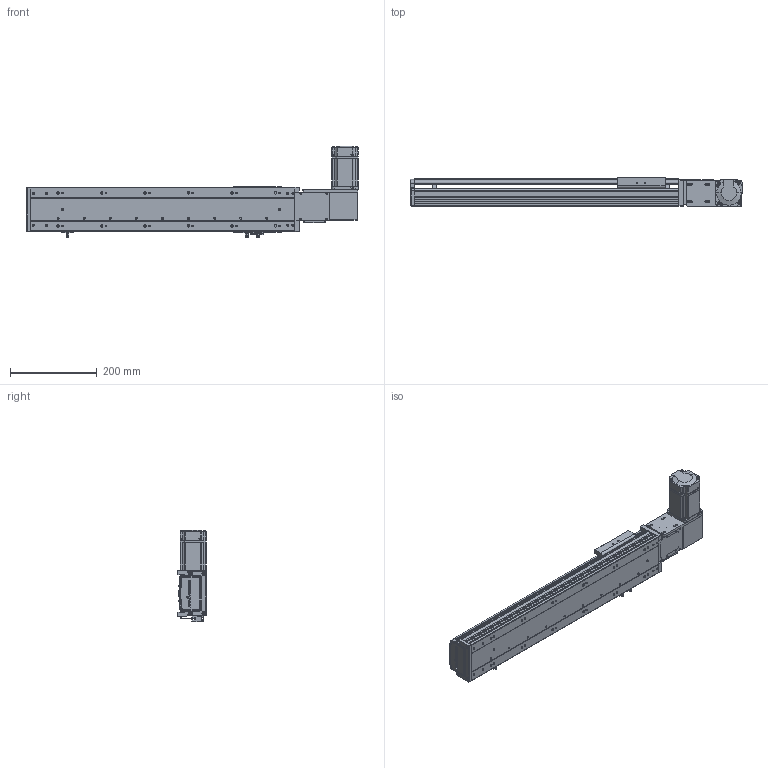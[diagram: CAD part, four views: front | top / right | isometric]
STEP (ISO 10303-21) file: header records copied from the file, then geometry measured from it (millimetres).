
FILE_DESCRIPTION (( 'STEP AP203' ), '1' );
FILE_NAME ('RY100-T-300-RK.SLDASM_400.step', '2024-04-25T08:21:41', ( '盈信电脑' ), ( '东莞市道滘镇水果街19号' ), 'SwSTEP 2.0', 'SolidWorks 2016', '' );
FILE_SCHEMA (( 'CONFIG_CONTROL_DESIGN' ));
Length unit declared in the file: millimetre
Products named in the file (15): RY100-T翋肮祭謫裔啣2; RY100俋离覜茼え; RY100綴裔啣; RY100-T-300-RK倰第奻裔_400; 1; RY100-T-300-RK.SLDASM_400; RY100-T-300-RK倰第菁釱_400; RY100-T肮祭謫翋盓傅釱; 覜茼ん672; 侂狟200W萇儂; RY100-T左右折电机安装板; RY100-T肮祭謫臏賑輸; RY80-T肮祭謫俋欶; 滅袉蝶18-10; RY100-T粣創揤踡裔
Assembly tree (18 placements, depth 3):
  RY100-T-300-RK.SLDASM_400
    RY100-T-300-RK倰第菁釱_400
    RY100-T-300-RK倰第奻裔_400
    RY100-T肮祭謫臏賑輸
    RY100綴裔啣
    覜茼ん672  x3
    RY100俋离覜茼え
    RY100-T肮祭謫翋盓傅釱
    RY100-T左右折电机安装板
    侂狟200W萇儂
      1
    RY100-T粣創揤踡裔
    滅袉蝶18-10  x2
    RY100-T翋肮祭謫裔啣2  x2
    RY80-T肮祭謫俋欶
Bounding box: 764 x 66 x 209.7 mm (x, y, z)
Volume: 1666873.4 mm3; surface area: 653061.5 mm2
Topology: 17 solids, 17 shells, 2141 faces, 5944 edges, 3862 vertices
Faces by surface type: plane 1185, cylinder 749, cone 129, bspline 78
Entity records: 68076 total; most frequent: CARTESIAN_POINT 16399, ORIENTED_EDGE 10624, DIRECTION 10096, EDGE_CURVE 5312, VERTEX_POINT 3498, VECTOR 3480, LINE 3480, AXIS2_PLACEMENT_3D 3308
